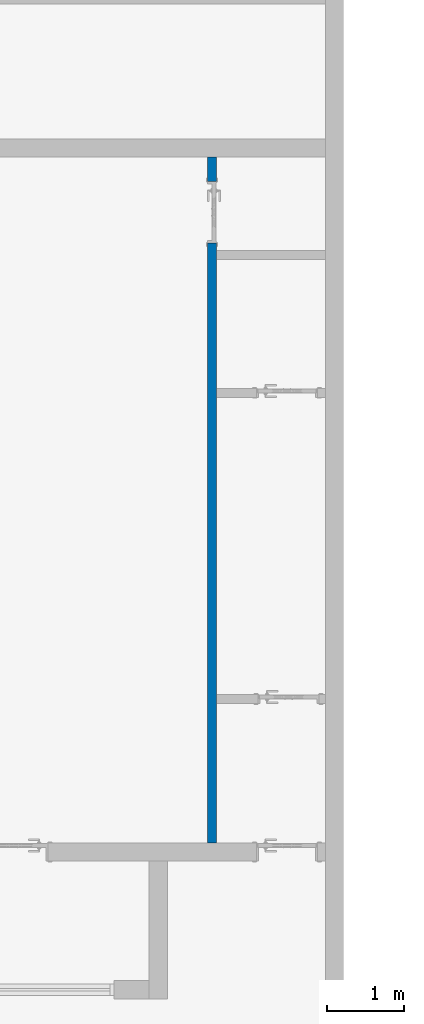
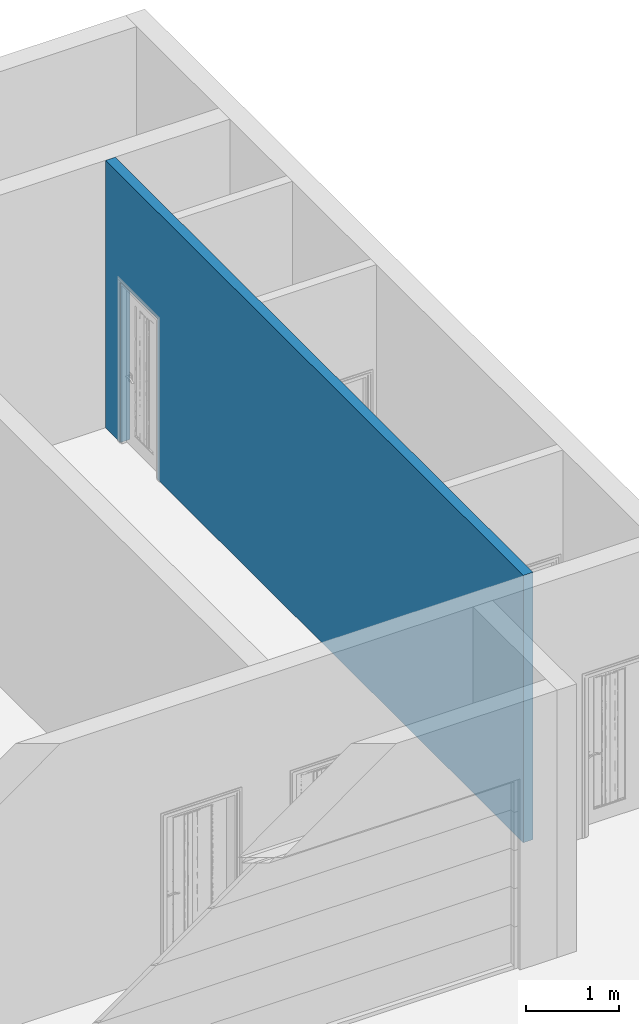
# One storey, part 15 of 24: 1 wall, 1 opening.
"""IFC2X3 building model written with IfcOpenShell, lengths in millimetres."""

from ifc_helpers import new_model, entity, si_unit, converted_unit, derived_unit, direction, frame, frame_2d, origin, place, context, subcontext, project, spatial, rectangle, extrude, material, layer, layer_set, layer_usage, type_object, element, save


model = new_model("IFC2X3")

# Units and contexts
model_context = context("Model", 3, precision=0.01, world=origin(), true_north=direction((6.12303176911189e-17, 1.0)))
body_context = subcontext(model_context, "Body", "Model", "MODEL_VIEW")
ifc_project = project(units=[si_unit("LENGTHUNIT", "METRE", prefix="MILLI"), si_unit("AREAUNIT", "SQUARE_METRE"), si_unit("VOLUMEUNIT", "CUBIC_METRE"), converted_unit("PLANEANGLEUNIT", "DEGREE", entity("IfcRatioMeasure", 0.0174532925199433), si_unit("PLANEANGLEUNIT", "RADIAN"), dimensions=[0, 0, 0, 0, 0, 0, 0]), si_unit("MASSUNIT", "GRAM", prefix="KILO"), derived_unit("MASSDENSITYUNIT", [(si_unit("MASSUNIT", "GRAM", prefix="KILO"), 1), (si_unit("LENGTHUNIT", "METRE"), -3)]), si_unit("TIMEUNIT", "SECOND"), si_unit("FREQUENCYUNIT", "HERTZ"), si_unit("THERMODYNAMICTEMPERATUREUNIT", "DEGREE_CELSIUS"), derived_unit("THERMALTRANSMITTANCEUNIT", [(si_unit("MASSUNIT", "GRAM", prefix="KILO"), 1), (si_unit("THERMODYNAMICTEMPERATUREUNIT", "KELVIN"), -1), (si_unit("TIMEUNIT", "SECOND"), -3)]), derived_unit("VOLUMETRICFLOWRATEUNIT", [(si_unit("LENGTHUNIT", "METRE"), 3), (si_unit("TIMEUNIT", "SECOND"), -1)]), si_unit("ELECTRICCURRENTUNIT", "AMPERE"), si_unit("ELECTRICVOLTAGEUNIT", "VOLT"), si_unit("POWERUNIT", "WATT"), si_unit("FORCEUNIT", "NEWTON", prefix="KILO"), si_unit("ILLUMINANCEUNIT", "LUX"), si_unit("LUMINOUSFLUXUNIT", "LUMEN"), si_unit("LUMINOUSINTENSITYUNIT", "CANDELA"), derived_unit("USERDEFINED", [(si_unit("MASSUNIT", "GRAM", prefix="KILO"), -1), (si_unit("LENGTHUNIT", "METRE"), -2), (si_unit("TIMEUNIT", "SECOND"), 3), (si_unit("LUMINOUSFLUXUNIT", "LUMEN"), 1)]), derived_unit("LINEARVELOCITYUNIT", [(si_unit("LENGTHUNIT", "METRE"), 1), (si_unit("TIMEUNIT", "SECOND"), -1)]), si_unit("PRESSUREUNIT", "PASCAL"), derived_unit("USERDEFINED", [(si_unit("LENGTHUNIT", "METRE"), -2), (si_unit("MASSUNIT", "GRAM", prefix="KILO"), 1), (si_unit("TIMEUNIT", "SECOND"), -2)])], contexts=[model_context])

# Site, building, storey
site_placement = place(None, origin())
site = spatial("IfcSite", under=ifc_project, at=site_placement, Name="表面", CompositionType="ELEMENT")
building_placement = place(site_placement, origin())
building = spatial("IfcBuilding", under=site, at=building_placement, CompositionType="ELEMENT")
storey_placement = place(building_placement, frame((0.0, 0.0, -3500.0)))
storey = spatial("IfcBuildingStorey", under=building, at=storey_placement, Name="-1F", CompositionType="ELEMENT", Elevation=-3500.0)

# Wall, opening
ifc_material_1 = material(Name="白色涂料")
ifc_layer_1 = layer(ifc_material_1, 10.0)
ifc_material_2 = material(Name="默认墙")
ifc_layer_2 = layer(ifc_material_2, 100.0)
ifc_layer_3 = layer(ifc_material_1, 10.0)
ifc_layer_set = layer_set([ifc_layer_1, ifc_layer_2, ifc_layer_3], Name="基本墙:粉刷墙120")
ifc_layer_usage = layer_usage(ifc_layer_set, "AXIS2", "NEGATIVE", 60.0)
wall_type = type_object("IfcWallType", Name="基本墙:粉刷墙120", PredefinedType="STANDARD", material=ifc_layer_set)
wall_placement = place(storey_placement, frame((9169.7500873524, 372.154087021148, 0.0), z_axis=(0.0, 0.0, 1.0), x_axis=(0.0, -1.0, 0.0)))
wall = element("IfcWallStandardCase", 1, at=wall_placement, inside=storey, type_object=wall_type, material=ifc_layer_usage, Name="基本墙:粉刷墙120", ObjectType="基本墙:粉刷墙120", context=body_context, shape_type="SweptSolid", body=[
    extrude(rectangle(XDim=8959.99999999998, YDim=120.000000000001, at=frame_2d((4479.99999999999, -1.98951966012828e-13), x_axis=(-1.0, 0.0))), origin(), (0.0, 0.0, 1.0), 3500.0),
])
opening_placement = place(wall_placement, frame((320.0, -60.0, 0.0)))
element("IfcOpeningElement", 2, at=opening_placement, cuts=wall, Name="装饰木门:M0821:1", ObjectType="Opening", context=body_context, shape_type="SweptSolid", body=[
    extrude(rectangle(XDim=2099.99999999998, YDim=800.0, at=frame_2d((1049.99999999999, 400.0), x_axis=(1.0, 0.0))), frame((0.0, 0.0, 0.0), z_axis=(0.0, 1.0, 0.0), x_axis=(0.0, 0.0, 1.0)), (0.0, 0.0, 1.0), 120.0),
])

save(model, "model.ifc")
